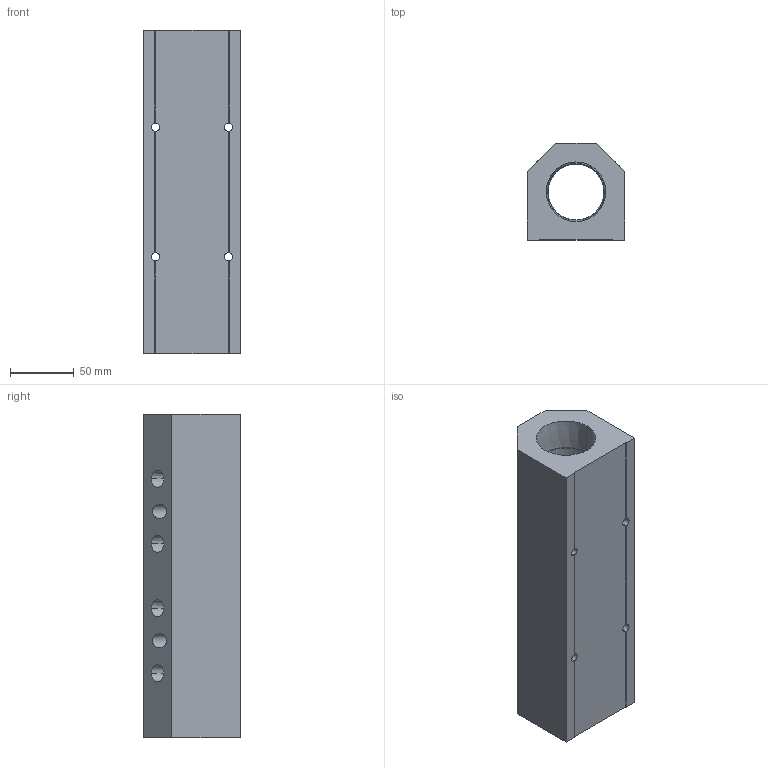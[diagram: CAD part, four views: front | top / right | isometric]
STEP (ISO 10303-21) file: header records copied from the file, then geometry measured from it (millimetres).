
FILE_DESCRIPTION (( 'STEP AP214' ), '1' );
FILE_NAME ('ALM4BCD-N4N24-254R.step', '2022-02-07T07:39:41', ( '' ), ( '' ), 'SwSTEP 2.0', 'SolidWorks 2020', '' );
FILE_SCHEMA (( 'AUTOMOTIVE_DESIGN' ));
Length unit declared in the file: millimetre
Products named in the file (1): ALM4BCD-N4N24-254R
Bounding box: 76.2 x 76.2 x 254 mm (x, y, z)
Volume: 913591.3 mm3; surface area: 123967.1 mm2
Topology: 1 solids, 1 shells, 343 faces, 910 edges, 604 vertices
Faces by surface type: plane 244, bspline 53, cone 28, cylinder 18
Entity records: 18471 total; most frequent: CARTESIAN_POINT 7011, ORIENTED_EDGE 1820, DIRECTION 1406, EDGE_CURVE 910, VECTOR 704, LINE 704, VERTEX_POINT 604, EDGE_LOOP 412
